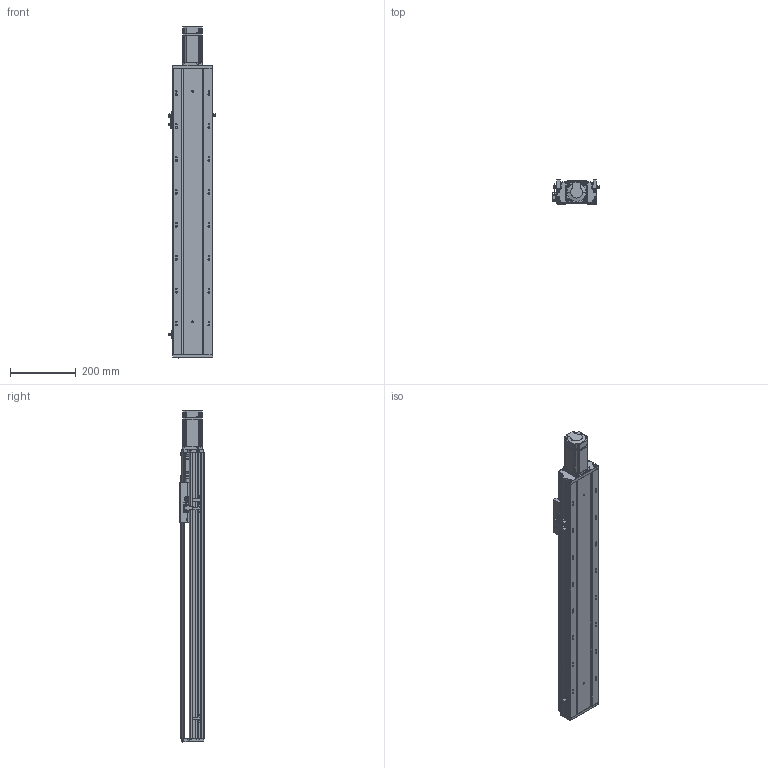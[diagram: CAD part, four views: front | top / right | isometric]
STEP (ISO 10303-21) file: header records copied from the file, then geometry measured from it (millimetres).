
FILE_DESCRIPTION (( 'STEP AP203' ), '1' );
FILE_NAME ('RYK120-L1610-S600-M40-C3-MK.STEP', '2026-03-09T06:48:11', ( '' ), ( '' ), 'SwSTEP 2.0', 'SolidWorks 2016', '' );
FILE_SCHEMA (( 'CONFIG_CONTROL_DESIGN' ));
Length unit declared in the file: millimetre
Products named in the file (17): RYK120-300-MK-奻裔啣-啞_600; CB╱T 3762-1996[锥形润滑油嘴1-ZM10×1]_1-ZM10×1; 15; 滅袉蝶18-24; RYK170-薊粣ん芵隴裔啣; 覜茼ん672; RY120-16螺母油路-集中注油组合; RYK120-L1610-S600-M40-C3-MK; 2.10.1.C521-V1.0RY120臏賑輸16蹟譫-啞-JZZY-NRL-L1899; RY120QGB-1.8; RYK120-300-MK-菁釱-啞_600; 侂狟400W侜督萇儂; RY120外置感应片(140共用）; RY120电机端支撑座-压铸加工-M5; 滅袉蝶18-10; RY120綴裔啣; 44-49-12-14
Assembly tree (21 placements, depth 3):
  RYK120-L1610-S600-M40-C3-MK
    RYK120-300-MK-菁釱-啞_600
    RYK120-300-MK-奻裔啣-啞_600
    RY120綴裔啣
    滅袉蝶18-24  x2
    滅袉蝶18-10  x2
    覜茼ん672  x3
    RY120外置感应片(140共用）
    RY120QGB-1.8
    RY120-16螺母油路-集中注油组合
      2.10.1.C521-V1.0RY120臏賑輸16蹟譫-啞-JZZY-NRL-L1899
      CB╱T 3762-1996[锥形润滑油嘴1-ZM10×1]_1-ZM10×1  x2
    RY120电机端支撑座-压铸加工-M5
    RYK170-薊粣ん芵隴裔啣
    44-49-12-14
    侂狟400W侜督萇儂
      15
Bounding box: 145.7 x 73 x 1008.5 mm (x, y, z)
Volume: 2822056.3 mm3; surface area: 967854.3 mm2
Topology: 23 solids, 23 shells, 2620 faces, 7294 edges, 4673 vertices
Faces by surface type: plane 1211, cylinder 1025, cone 257, bspline 127
Entity records: 87880 total; most frequent: CARTESIAN_POINT 25642, ORIENTED_EDGE 13112, DIRECTION 11947, EDGE_CURVE 6556, VERTEX_POINT 4285, AXIS2_PLACEMENT_3D 4102, VECTOR 3743, LINE 3743
